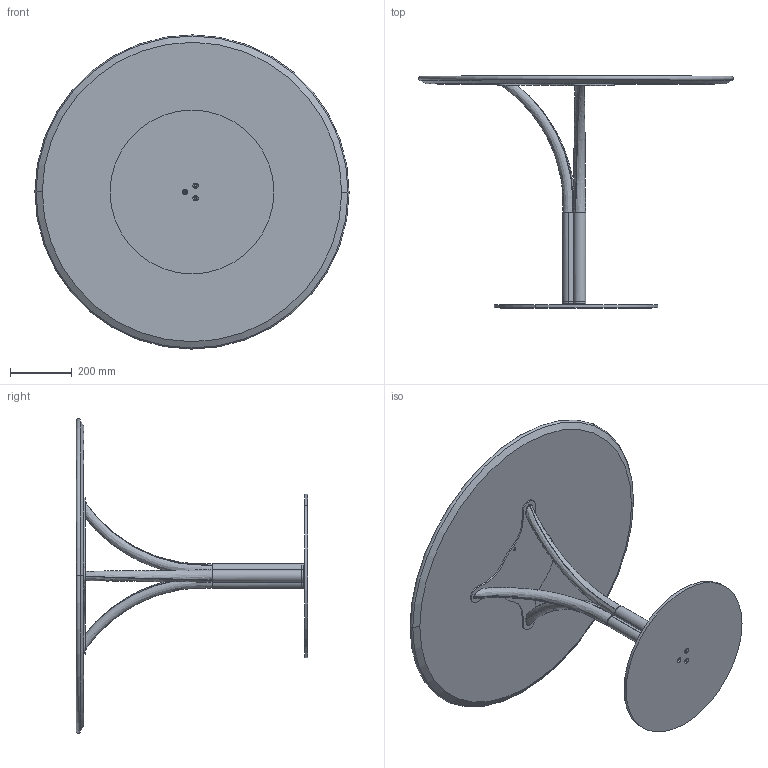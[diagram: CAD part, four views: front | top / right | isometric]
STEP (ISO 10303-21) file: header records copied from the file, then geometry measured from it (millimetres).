
FILE_DESCRIPTION (( 'STEP AP203' ), '1' );
FILE_NAME ('DB30A.STEP', '2024-08-08T08:17:23', ( '' ), ( '' ), 'SwSTEP 2.0', 'SolidWorks 2022', '' );
FILE_SCHEMA (( 'CONFIG_CONTROL_DESIGN' ));
Length unit declared in the file: millimetre
Products named in the file (8): Assieme piani incassatti cristallo_Ø100cm; DB30A; C1XCRMXX-00-piani Rotondi Cristallo_C03 D.100cm; CBS000000BAS-00-BISTRO PIASTRA INFERIORE_D.530; BOMB0001-00-PIANO LEGNO CON INCASSO Ø100_MDF per Ø100cm; DOD000000_01-01-poggiapiano; DOD000000-01-DODO BASE ; DOD000000_02-00-Gamba curvata per DODO''_Default<A macchina>
Assembly tree (9 placements, depth 3):
  DB30A
    CBS000000BAS-00-BISTRO PIASTRA INFERIORE_D.530
    DOD000000-01-DODO BASE 
      DOD000000_02-00-Gamba curvata per DODO''_Default<A macchina>  x3
      DOD000000_01-01-poggiapiano
    Assieme piani incassatti cristallo_Ø100cm
      BOMB0001-00-PIANO LEGNO CON INCASSO Ø100_MDF per Ø100cm
      C1XCRMXX-00-piani Rotondi Cristallo_C03 D.100cm
Bounding box: 1016.99 x 750 x 1016.99 mm (x, y, z)
Volume: 25961170.4 mm3; surface area: 4416757.8 mm2
Topology: 10 solids, 10 shells, 110 faces, 259 edges, 170 vertices
Faces by surface type: cylinder 61, plane 27, bspline 12, cone 8, torus 2
Entity records: 6527 total; most frequent: CARTESIAN_POINT 3701, DIRECTION 447, ORIENTED_EDGE 374, AXIS2_PLACEMENT_3D 188, EDGE_CURVE 187, VERTEX_POINT 122, EDGE_LOOP 101, CIRCLE 100
